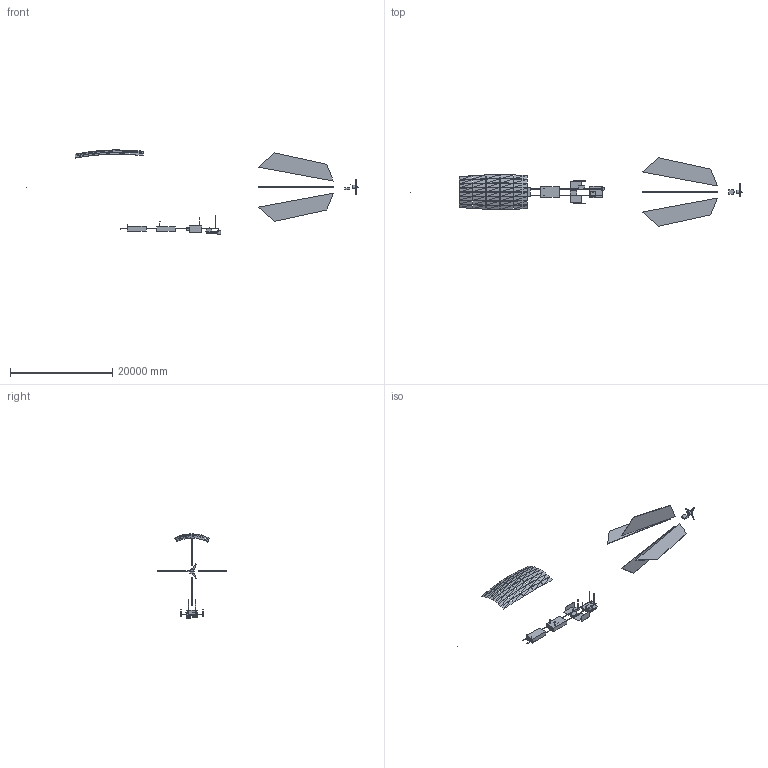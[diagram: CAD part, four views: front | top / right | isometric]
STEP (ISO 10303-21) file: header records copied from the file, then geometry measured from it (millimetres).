
FILE_DESCRIPTION(('FreeCAD Model'),'2;1');
FILE_NAME('Open CASCADE Shape Model','2026-10-23T19:49:52',('FreeCAD'),( 'FreeCAD'),'Open CASCADE STEP processor 7.8','FreeCAD','Unknown');
FILE_SCHEMA(('AUTOMOTIVE_DESIGN { 1 0 10303 214 1 1 1 1 }'));
Length unit declared in the file: millimetre
Products named in the file (1): Open CASCADE STEP translator 7.8 1
Bounding box: 65000 x 13424.62 x 16498.26 mm (x, y, z)
Volume: 5654983136545.8 mm3; surface area: 2703251322.4 mm2
Topology: 133 solids, 133 shells, 640 faces, 1167 edges, 778 vertices
Faces by surface type: plane 619, cylinder 13, sphere 6, revolution 1, cone 1
Full cylindrical faces by diameter (mm): 90 x8, 110 x2, 240 x1, 660 x1, 680 x1
Entity records: 15169 total; most frequent: CARTESIAN_POINT 2740, DIRECTION 2453, ORIENTED_EDGE 2290, EDGE_CURVE 1145, LINE 1118, VECTOR 1118, VERTEX_POINT 771, AXIS2_PLACEMENT_3D 667
